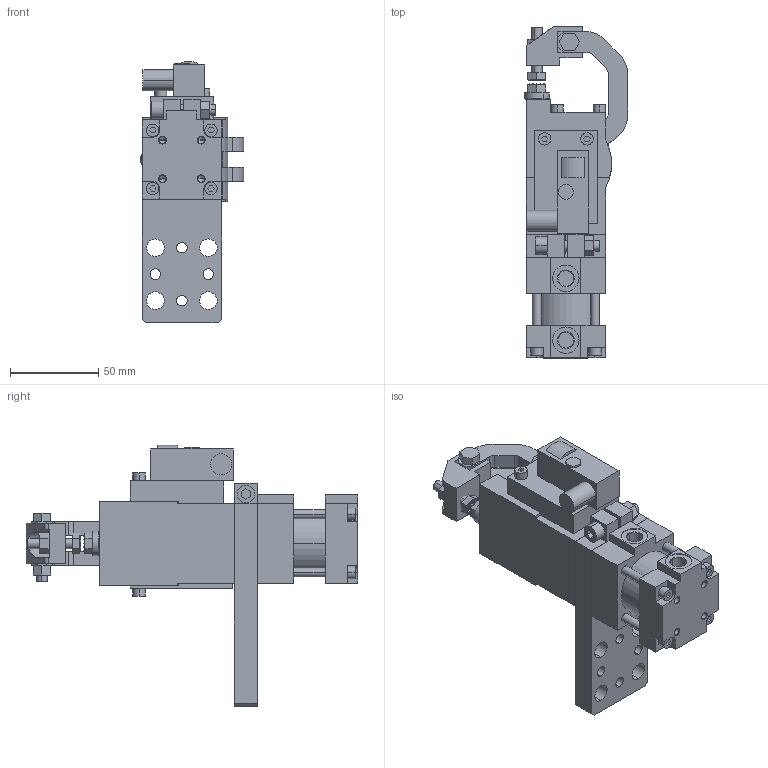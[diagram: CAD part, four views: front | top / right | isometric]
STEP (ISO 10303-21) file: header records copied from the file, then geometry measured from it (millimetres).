
FILE_DESCRIPTION (( 'STEP AP214' ), '1' );
FILE_NAME ('b32_a1s4_pla___a_a.STEP', '2018-05-08T12:51:55', ( 'vepadmin' ), ( 'Hewlett-Packard Company' ), 'SwSTEP 2.0', 'SolidWorks 2018', '' );
FILE_SCHEMA (( 'AUTOMOTIVE_DESIGN' ));
Length unit declared in the file: millimetre
Products named in the file (12): scatola_micro_b32; blocchetto_p&f_90; tassello_a1_b32; piedino_zigrinato_M6x25; rondella_s4_b32a; piedino_zigrinato_M6x10; gruppo_cilindro_b32; piastra_a_b32; riparo_micro_b32; leva_b32a; gruppo_montante_b32a; b32_a1s4_pla___a_a
Assembly tree (11 placements, depth 2):
  b32_a1s4_pla___a_a
    gruppo_montante_b32a
    leva_b32a
    riparo_micro_b32
    piastra_a_b32
    gruppo_cilindro_b32
    piedino_zigrinato_M6x10
    rondella_s4_b32a
    piedino_zigrinato_M6x25
    tassello_a1_b32
    blocchetto_p&f_90
    scatola_micro_b32
Bounding box: 58.49 x 188 x 148.1 mm (x, y, z)
Volume: 372822.4 mm3; surface area: 105255.1 mm2
Topology: 11 solids, 11 shells, 802 faces, 1950 edges, 1263 vertices
Faces by surface type: plane 537, cylinder 223, cone 42
Entity records: 24252 total; most frequent: CARTESIAN_POINT 4288, DIRECTION 3920, ORIENTED_EDGE 3872, EDGE_CURVE 1936, LINE 1402, VECTOR 1402, VERTEX_POINT 1263, AXIS2_PLACEMENT_3D 1259
